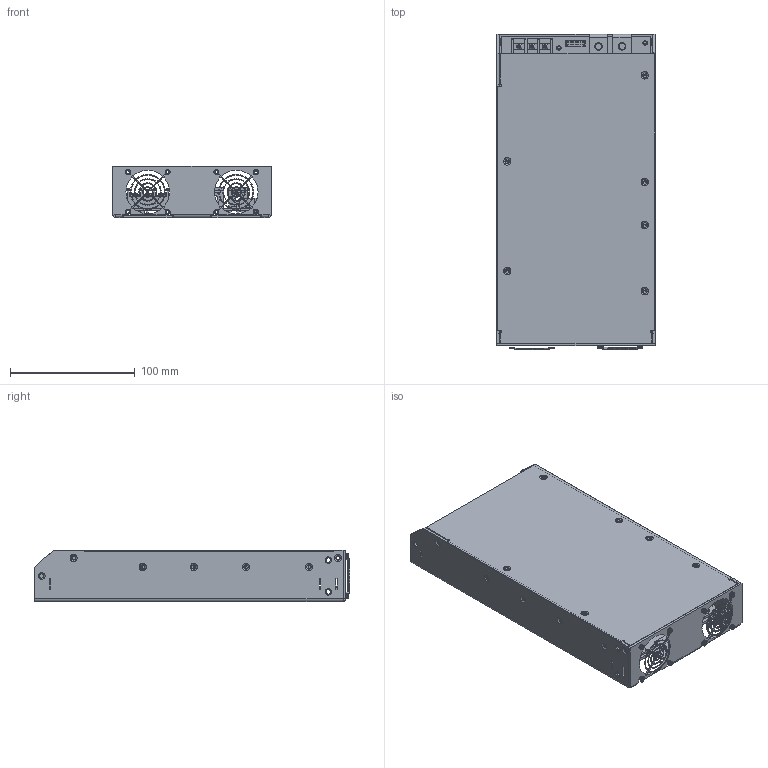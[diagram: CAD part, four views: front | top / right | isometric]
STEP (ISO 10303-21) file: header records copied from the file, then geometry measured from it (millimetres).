
FILE_DESCRIPTION(('Creo Elements/Direct Modeling STEP Export'),'2;1');
FILE_NAME('RSP-750-20250324.stp','2025-03-24T14:28:22',(''),(''),'Creo Elements/Direct Modeling STEP processor for AP214 (Solid Model)','Creo Elements/Direct Modeling 19.0G 27-Nov-2017 (C) Parametric Technology GmbH','');
FILE_SCHEMA(('AUTOMOTIVE_DESIGN { 1 0 10303 214 1 1 1 1 }'));
Length unit declared in the file: millimetre
Products named in the file (21): DH2I-2X7_PRT.PRT; DH2I-2X7_STP.ASM; FAN_A_PRT.PRT; FAN_PRT.PRT; FAN-ALL_1_ASM.ASM; HS1_PRT.PRT; PCB_1_PRT.PRT; HS2_PRT.PRT; HS3_PRT.PRT; MOS_PRT.PRT; FAN_1_ASM.ASM; PCB_PRT.PRT; 952_ASM.ASM; M3-10L_S_J_S_0_X2_02DC_X-257850.PRT; CASE_PRT.PRT; FF_1_1_1_1_1_PRT.PRT; M3-10L_S_J_S_0_X2_02DC_X-352710.PRT; M3-10L_S_J_S_0_X2_02DC_X-354520.PRT; BASE_ASM.ASM; RSP-750_STP.ASM; RSP-750.stp
Assembly tree (28 placements, depth 6):
  RSP-750.stp
    RSP-750_STP.ASM
      BASE_ASM.ASM
        M3-10L_S_J_S_0_X2_02DC_X-354520.PRT
        M3-10L_S_J_S_0_X2_02DC_X-352710.PRT
        FF_1_1_1_1_1_PRT.PRT  x3
        CASE_PRT.PRT
        M3-10L_S_J_S_0_X2_02DC_X-257850.PRT  x5
      952_ASM.ASM
        PCB_PRT.PRT
        FAN_1_ASM.ASM
          FAN-ALL_1_ASM.ASM  x2
            FAN_PRT.PRT
            FAN_A_PRT.PRT
        MOS_PRT.PRT
        HS3_PRT.PRT
        HS2_PRT.PRT
        PCB_1_PRT.PRT
        HS1_PRT.PRT
        FAN-ALL_1_ASM.ASM
          FAN_PRT.PRT
          FAN_A_PRT.PRT
      DH2I-2X7_STP.ASM
        DH2I-2X7_PRT.PRT
Bounding box: 127 x 253.17 x 41 mm (x, y, z)
Volume: 215665.5 mm3; surface area: 269121.6 mm2
Topology: 17 solids, 17 shells, 2366 faces, 6308 edges, 4088 vertices
Faces by surface type: plane 1419, cylinder 659, torus 186, cone 102
Entity records: 73461 total; most frequent: CARTESIAN_POINT 11053, ORIENTED_EDGE 10656, DIRECTION 9767, EDGE_CURVE 5328, VECTOR 3669, LINE 3669, VERTEX_POINT 3440, AXIS2_PLACEMENT_3D 3049
